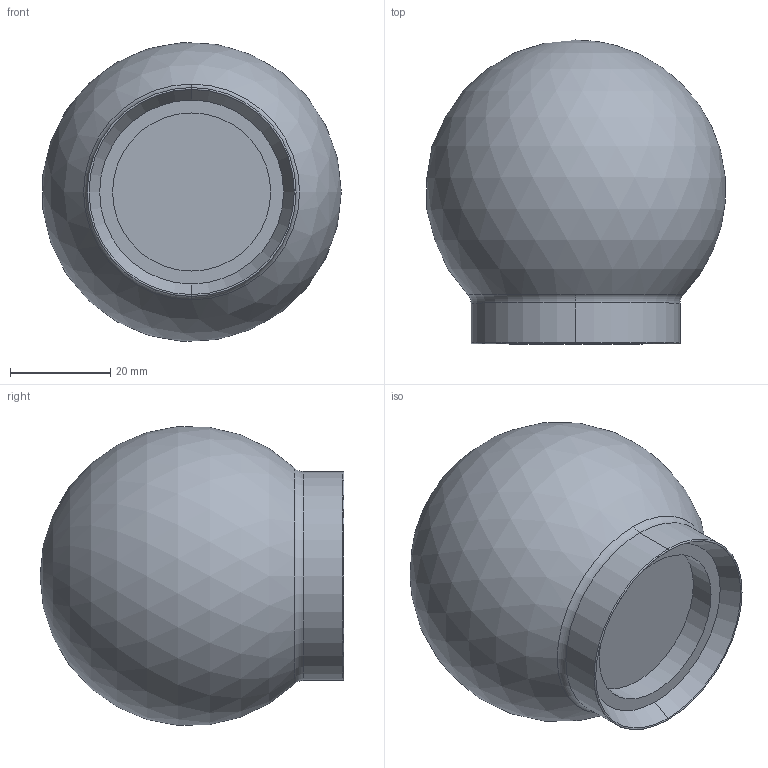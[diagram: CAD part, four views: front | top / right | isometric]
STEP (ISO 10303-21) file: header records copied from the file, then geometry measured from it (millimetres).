
FILE_DESCRIPTION (( 'STEP AP203' ), '1' );
FILE_NAME ('DiGi Module XT3 & 6 - Cover - Globe.STEP', '2025-08-06T11:24:49', ( '' ), ( '' ), 'SwSTEP 2.0', 'SolidWorks 2025', '' );
FILE_SCHEMA (( 'CONFIG_CONTROL_DESIGN' ));
Length unit declared in the file: millimetre
Products named in the file (1): DiGi Module XT3 & 6 - Cover - Globe
Bounding box: 59.65 x 60.73 x 59.7 mm (x, y, z)
Volume: 111151.8 mm3; surface area: 13025.9 mm2
Topology: 1 solids, 1 shells, 12 faces, 24 edges, 14 vertices
Faces by surface type: torus 4, cylinder 3, plane 2, cone 2, sphere 1
Full cylindrical faces by diameter (mm): 31.6 x1
Entity records: 365 total; most frequent: DIRECTION 62, CARTESIAN_POINT 45, ORIENTED_EDGE 40, AXIS2_PLACEMENT_3D 29, EDGE_CURVE 20, CIRCLE 16, EDGE_LOOP 14, ADVANCED_FACE 12
